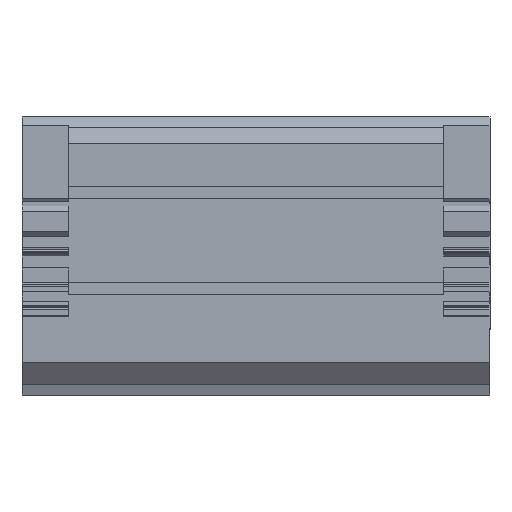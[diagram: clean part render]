
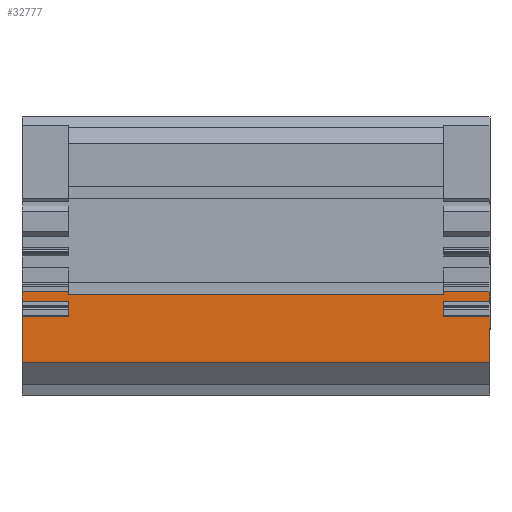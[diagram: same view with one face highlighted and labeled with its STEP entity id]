
A CAD part, front view. The second image highlights one B-rep face of the part: STEP entity #32777.
In plain terms, the highlighted planar face has unit normal (0, -1, 0).
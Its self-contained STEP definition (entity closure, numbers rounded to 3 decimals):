
#605 = CARTESIAN_POINT ( 'NONE',  ( 102., 0., -46.181 ) ) ;
#841 = CARTESIAN_POINT ( 'NONE',  ( 82., 0., -16.68 ) ) ;
#1307 = VECTOR ( 'NONE', #16671, 1000. ) ;
#1646 = VECTOR ( 'NONE', #25917, 1000. ) ;
#1697 = EDGE_CURVE ( 'NONE', #31374, #20417, #20677, .T. ) ;
#1730 = CARTESIAN_POINT ( 'NONE',  ( -100., 0., -60. ) ) ;
#1910 = CARTESIAN_POINT ( 'NONE',  ( 102., 0., -26.122 ) ) ;
#2045 = LINE ( 'NONE', #11713, #15577 ) ;
#2221 = VERTEX_POINT ( 'NONE', #14140 ) ;
#3286 = VERTEX_POINT ( 'NONE', #25628 ) ;
#3287 = VERTEX_POINT ( 'NONE', #23626 ) ;
#3359 = ORIENTED_EDGE ( 'NONE', *, *, #20052, .F. ) ;
#3384 = VERTEX_POINT ( 'NONE', #3845 ) ;
#3845 = CARTESIAN_POINT ( 'NONE',  ( 82., 0., -26.122 ) ) ;
#3878 = VERTEX_POINT ( 'NONE', #1910 ) ;
#4325 = ORIENTED_EDGE ( 'NONE', *, *, #1697, .F. ) ;
#4486 = EDGE_CURVE ( 'NONE', #2221, #16873, #6460, .T. ) ;
#4989 = ORIENTED_EDGE ( 'NONE', *, *, #5476, .F. ) ;
#5476 = EDGE_CURVE ( 'NONE', #31119, #31783, #15663, .T. ) ;
#5643 = CARTESIAN_POINT ( 'NONE',  ( -80., 0., -16.68 ) ) ;
#5690 = CARTESIAN_POINT ( 'NONE',  ( -80., 0., -16.68 ) ) ;
#5865 = CARTESIAN_POINT ( 'NONE',  ( -80., 0., -19.559 ) ) ;
#6046 = CARTESIAN_POINT ( 'NONE',  ( -100., 0., -19.559 ) ) ;
#6460 = LINE ( 'NONE', #18932, #8887 ) ;
#6832 = LINE ( 'NONE', #14472, #10094 ) ;
#6922 = VERTEX_POINT ( 'NONE', #5865 ) ;
#7266 = VECTOR ( 'NONE', #11102, 1000. ) ;
#7377 = VECTOR ( 'NONE', #30806, 1000. ) ;
#7515 = ORIENTED_EDGE ( 'NONE', *, *, #23951, .F. ) ;
#7736 = CARTESIAN_POINT ( 'NONE',  ( 82., 0., -19.559 ) ) ;
#7764 = DIRECTION ( 'NONE',  ( 0., 1., 0. ) ) ;
#8009 = CARTESIAN_POINT ( 'NONE',  ( -100., 0., -26.122 ) ) ;
#8067 = EDGE_CURVE ( 'NONE', #3287, #24754, #23558, .T. ) ;
#8887 = VECTOR ( 'NONE', #11783, 1000. ) ;
#9030 = EDGE_CURVE ( 'NONE', #3286, #24829, #11467, .T. ) ;
#9621 = VERTEX_POINT ( 'NONE', #23191 ) ;
#9756 = EDGE_CURVE ( 'NONE', #24754, #15788, #31822, .T. ) ;
#10094 = VECTOR ( 'NONE', #27265, 1000. ) ;
#10101 = DIRECTION ( 'NONE',  ( 0., 0., 1. ) ) ;
#10239 = LINE ( 'NONE', #7736, #15556 ) ;
#10526 = DIRECTION ( 'NONE',  ( 0., 0., 1. ) ) ;
#10880 = CARTESIAN_POINT ( 'NONE',  ( 82., 0., -13.581 ) ) ;
#11055 = CARTESIAN_POINT ( 'NONE',  ( 102., 0., -13.581 ) ) ;
#11102 = DIRECTION ( 'NONE',  ( -1., 0., 0. ) ) ;
#11467 = LINE ( 'NONE', #21603, #30134 ) ;
#11713 = CARTESIAN_POINT ( 'NONE',  ( -100., 0., -13.581 ) ) ;
#11783 = DIRECTION ( 'NONE',  ( 1., 0., 0. ) ) ;
#11825 = CARTESIAN_POINT ( 'NONE',  ( -80., 0., -19.559 ) ) ;
#11886 = ORIENTED_EDGE ( 'NONE', *, *, #29645, .T. ) ;
#11983 = DIRECTION ( 'NONE',  ( 0., 0., 1. ) ) ;
#12032 = ORIENTED_EDGE ( 'NONE', *, *, #29848, .F. ) ;
#12359 = ORIENTED_EDGE ( 'NONE', *, *, #12990, .F. ) ;
#12428 = VECTOR ( 'NONE', #21044, 1000. ) ;
#12765 = VERTEX_POINT ( 'NONE', #841 ) ;
#12990 = EDGE_CURVE ( 'NONE', #20417, #16873, #6832, .T. ) ;
#14140 = CARTESIAN_POINT ( 'NONE',  ( 82., 0., -19.559 ) ) ;
#14224 = CARTESIAN_POINT ( 'NONE',  ( 82., 0., -13.581 ) ) ;
#14472 = CARTESIAN_POINT ( 'NONE',  ( 102., 0., -46.181 ) ) ;
#14918 = CARTESIAN_POINT ( 'NONE',  ( 0., 0., 0. ) ) ;
#15170 = CARTESIAN_POINT ( 'NONE',  ( -100., 0., -46.181 ) ) ;
#15556 = VECTOR ( 'NONE', #20366, 1000. ) ;
#15577 = VECTOR ( 'NONE', #29485, 1000. ) ;
#15663 = LINE ( 'NONE', #23306, #24336 ) ;
#15788 = VERTEX_POINT ( 'NONE', #18179 ) ;
#16593 = ORIENTED_EDGE ( 'NONE', *, *, #31161, .F. ) ;
#16671 = DIRECTION ( 'NONE',  ( 1., 0., 0. ) ) ;
#16873 = VERTEX_POINT ( 'NONE', #21907 ) ;
#17124 = CARTESIAN_POINT ( 'NONE',  ( -100., 0., -19.559 ) ) ;
#17299 = LINE ( 'NONE', #11825, #18222 ) ;
#18179 = CARTESIAN_POINT ( 'NONE',  ( -100., 0., -26.122 ) ) ;
#18222 = VECTOR ( 'NONE', #11983, 1000. ) ;
#18307 = EDGE_CURVE ( 'NONE', #3384, #3878, #31344, .T. ) ;
#18354 = LINE ( 'NONE', #6046, #1307 ) ;
#18443 = LINE ( 'NONE', #5643, #1646 ) ;
#18685 = CARTESIAN_POINT ( 'NONE',  ( -100., 0., -13.581 ) ) ;
#18932 = CARTESIAN_POINT ( 'NONE',  ( 82., 0., -19.559 ) ) ;
#20052 = EDGE_CURVE ( 'NONE', #24829, #12765, #18443, .T. ) ;
#20104 = LINE ( 'NONE', #22760, #12428 ) ;
#20366 = DIRECTION ( 'NONE',  ( 0., 0., 1. ) ) ;
#20417 = VERTEX_POINT ( 'NONE', #11055 ) ;
#20638 = DIRECTION ( 'NONE',  ( 1., 0., 0. ) ) ;
#20677 = LINE ( 'NONE', #10880, #7377 ) ;
#21044 = DIRECTION ( 'NONE',  ( 0., 0., -1. ) ) ;
#21149 = VECTOR ( 'NONE', #21860, 1000. ) ;
#21326 = VECTOR ( 'NONE', #32009, 1000. ) ;
#21408 = ORIENTED_EDGE ( 'NONE', *, *, #4486, .T. ) ;
#21489 = ORIENTED_EDGE ( 'NONE', *, *, #31713, .T. ) ;
#21603 = CARTESIAN_POINT ( 'NONE',  ( -80., 0., -11.421 ) ) ;
#21806 = VECTOR ( 'NONE', #20638, 1000. ) ;
#21860 = DIRECTION ( 'NONE',  ( 0., 0., 1. ) ) ;
#21907 = CARTESIAN_POINT ( 'NONE',  ( 102., 0., -19.559 ) ) ;
#22044 = CARTESIAN_POINT ( 'NONE',  ( 82., 0., -11.421 ) ) ;
#22367 = LINE ( 'NONE', #22044, #21326 ) ;
#22559 = FACE_OUTER_BOUND ( 'NONE', #25116, .T. ) ;
#22760 = CARTESIAN_POINT ( 'NONE',  ( 102., 0., -46.181 ) ) ;
#23129 = LINE ( 'NONE', #8009, #21806 ) ;
#23191 = CARTESIAN_POINT ( 'NONE',  ( -80., 0., -26.122 ) ) ;
#23306 = CARTESIAN_POINT ( 'NONE',  ( -100., 0., -60. ) ) ;
#23558 = LINE ( 'NONE', #605, #7266 ) ;
#23626 = CARTESIAN_POINT ( 'NONE',  ( 102., 0., -46.181 ) ) ;
#23951 = EDGE_CURVE ( 'NONE', #9621, #6922, #17299, .T. ) ;
#24336 = VECTOR ( 'NONE', #10526, 1000. ) ;
#24387 = ORIENTED_EDGE ( 'NONE', *, *, #27290, .F. ) ;
#24754 = VERTEX_POINT ( 'NONE', #15170 ) ;
#24829 = VERTEX_POINT ( 'NONE', #5690 ) ;
#25116 = EDGE_LOOP ( 'NONE', ( #3359, #25943, #12032, #4989, #21489, #7515, #24387, #31180, #30068, #16593, #30798, #11886, #21408, #12359, #4325, #32436 ) ) ;
#25375 = PLANE ( 'NONE',  #28977 ) ;
#25628 = CARTESIAN_POINT ( 'NONE',  ( -80., 0., -13.581 ) ) ;
#25917 = DIRECTION ( 'NONE',  ( 1., 0., 0. ) ) ;
#25943 = ORIENTED_EDGE ( 'NONE', *, *, #9030, .F. ) ;
#27243 = DIRECTION ( 'NONE',  ( 0., 0., -1. ) ) ;
#27265 = DIRECTION ( 'NONE',  ( 0., 0., -1. ) ) ;
#27290 = EDGE_CURVE ( 'NONE', #15788, #9621, #23129, .T. ) ;
#28337 = EDGE_CURVE ( 'NONE', #12765, #31374, #22367, .T. ) ;
#28977 = AXIS2_PLACEMENT_3D ( 'NONE', #14918, #7764, #10101 ) ;
#29485 = DIRECTION ( 'NONE',  ( 1., 0., 0. ) ) ;
#29645 = EDGE_CURVE ( 'NONE', #3384, #2221, #10239, .T. ) ;
#29848 = EDGE_CURVE ( 'NONE', #31783, #3286, #2045, .T. ) ;
#30068 = ORIENTED_EDGE ( 'NONE', *, *, #8067, .F. ) ;
#30134 = VECTOR ( 'NONE', #27243, 1000. ) ;
#30712 = VECTOR ( 'NONE', #31516, 1000. ) ;
#30798 = ORIENTED_EDGE ( 'NONE', *, *, #18307, .F. ) ;
#30806 = DIRECTION ( 'NONE',  ( 1., 0., 0. ) ) ;
#31119 = VERTEX_POINT ( 'NONE', #17124 ) ;
#31161 = EDGE_CURVE ( 'NONE', #3878, #3287, #20104, .T. ) ;
#31180 = ORIENTED_EDGE ( 'NONE', *, *, #9756, .F. ) ;
#31344 = LINE ( 'NONE', #31838, #30712 ) ;
#31374 = VERTEX_POINT ( 'NONE', #14224 ) ;
#31516 = DIRECTION ( 'NONE',  ( 1., 0., 0. ) ) ;
#31713 = EDGE_CURVE ( 'NONE', #31119, #6922, #18354, .T. ) ;
#31783 = VERTEX_POINT ( 'NONE', #18685 ) ;
#31822 = LINE ( 'NONE', #1730, #21149 ) ;
#31838 = CARTESIAN_POINT ( 'NONE',  ( 82., 0., -26.122 ) ) ;
#32009 = DIRECTION ( 'NONE',  ( 0., 0., 1. ) ) ;
#32436 = ORIENTED_EDGE ( 'NONE', *, *, #28337, .F. ) ;
#32777 = ADVANCED_FACE ( 'NONE', ( #22559 ), #25375, .F. ) ;
